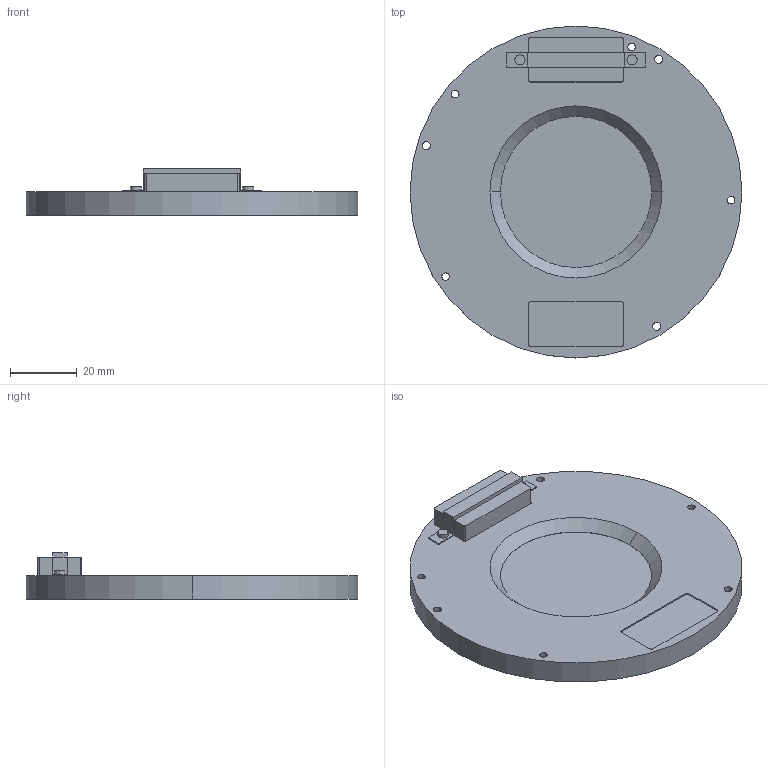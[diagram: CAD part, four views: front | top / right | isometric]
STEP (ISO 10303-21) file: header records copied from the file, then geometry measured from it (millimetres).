
FILE_DESCRIPTION (( 'STEP AP214' ), '1' );
FILE_NAME ('NS45B Dumb.STEP', '2013-07-17T17:50:29', ( 'helen' ), ( 'Microsoft' ), 'SwSTEP 2.0', 'SolidWorks 2010', '' );
FILE_SCHEMA (( 'AUTOMOTIVE_DESIGN' ));
Length unit declared in the file: inch
Products named in the file (1): NS45B Dumb
Bounding box: 99.57 x 99.57 x 13.84 mm (x, y, z)
Volume: 48442.8 mm3; surface area: 19145.9 mm2
Topology: 1 solids, 1 shells, 77 faces, 204 edges, 132 vertices
Faces by surface type: plane 37, cylinder 36, cone 4
Entity records: 2942 total; most frequent: DIRECTION 436, CARTESIAN_POINT 414, ORIENTED_EDGE 408, EDGE_CURVE 204, AXIS2_PLACEMENT_3D 154, VERTEX_POINT 132, VECTOR 128, LINE 128
